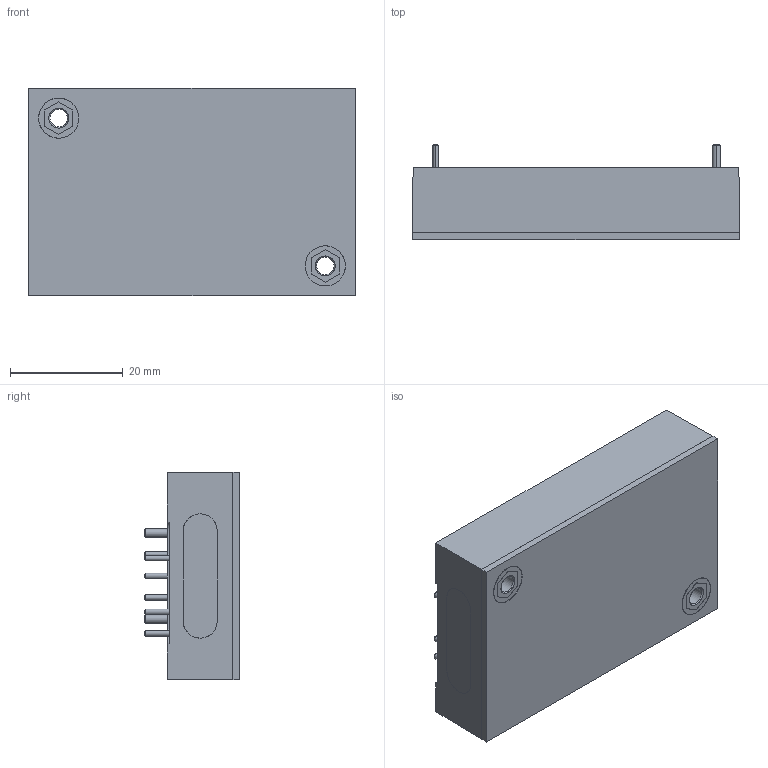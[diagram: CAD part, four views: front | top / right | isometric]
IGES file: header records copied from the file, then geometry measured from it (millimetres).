
Start section: SolidWorks IGES file using analytic representation for surfaces
Global section: file name: C:\Users\ksmith\OneDrive - XP Power\Desktop\Cincon CAD Files to Update\Cleaned Models\QHL75\QHL75 Through hole.IGS; native system: SolidWorks 2020; preprocessor: SolidWorks 2020; author: ksmith; date: 210810.095147; units: inch
Bounding box: 57.9 x 16.9 x 36.8 mm (x, y, z)
Surface area: 19523.1 mm2 (no closed solid volume)
Topology: 0 solids, 0 shells, 571 faces, 6103 edges, 6103 vertices
Faces by surface type: bspline 457, revolution 114
